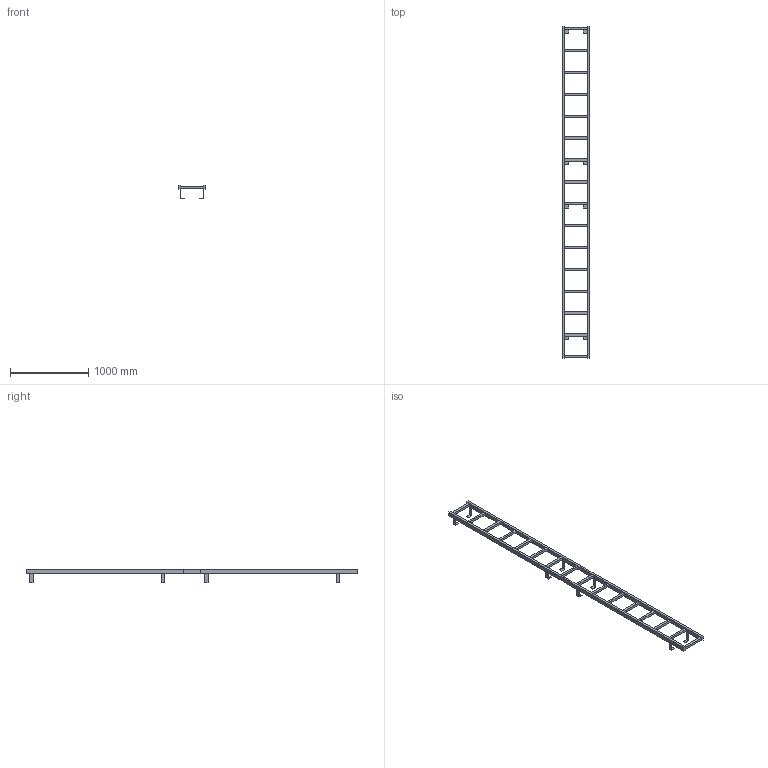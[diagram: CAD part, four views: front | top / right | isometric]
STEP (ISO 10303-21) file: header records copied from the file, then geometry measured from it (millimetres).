
FILE_DESCRIPTION((''),'2;1');
FILE_NAME('52310904','2024-10-17T11:50:42',('wep'),('HUBER SE'),'CREO PARAMETRIC BY PTC INC, 2022162','CREO PARAMETRIC BY PTC INC, 2022162','');
FILE_SCHEMA(('AUTOMOTIVE_DESIGN { 1 0 10303 214 1 1 1 1 }'));
Length unit declared in the file: millimetre
Products named in the file (1): 52310904
Bounding box: 350 x 4250 x 178.5 mm (x, y, z)
Volume: 16561850 mm3; surface area: 2077210.4 mm2
Topology: 4 solids, 4 shells, 160 faces, 456 edges, 296 vertices
Faces by surface type: plane 160
Entity records: 5687 total; most frequent: CARTESIAN_POINT 914, ORIENTED_EDGE 912, DIRECTION 776, VECTOR 456, LINE 456, EDGE_CURVE 456, VERTEX_POINT 296, EDGE_LOOP 180
